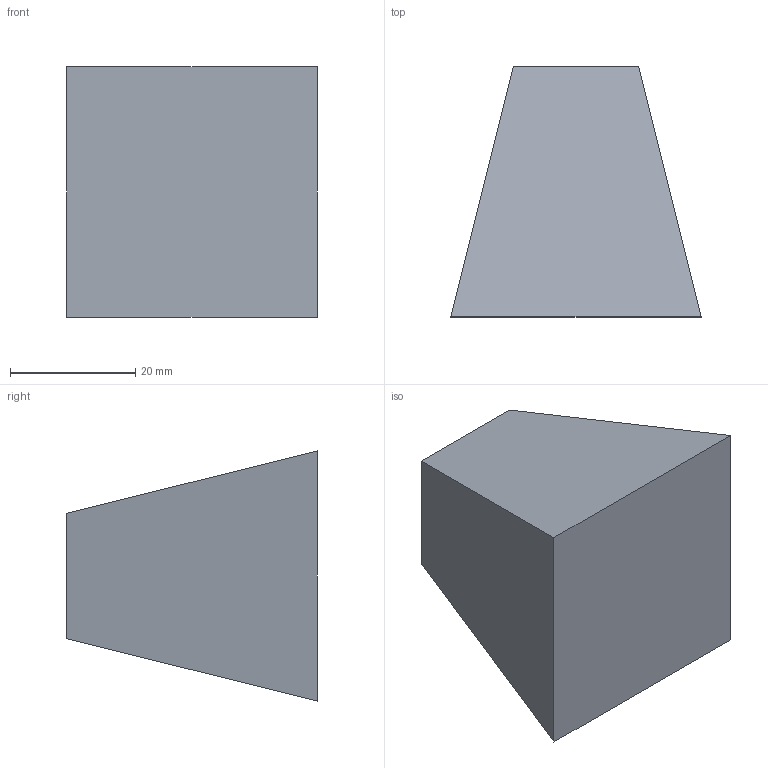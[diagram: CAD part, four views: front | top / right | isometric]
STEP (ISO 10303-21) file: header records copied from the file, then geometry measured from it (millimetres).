
FILE_DESCRIPTION(/* description */ ('','CAx-IF Rec.Pracs.---Representation and Presentation of Product Manufacturing Information (PMI)---4.0---2014-10-13'),/* implementation_level */ '2;1');
FILE_NAME(/* name */ '2.stp',/* time_stamp */ '2026-06-27T16:24:02+01:00',/* author */ ('hunte'),/* organization */ (''),/* preprocessor_version */ 'ST-DEVELOPER v20',/* originating_system */ 'Autodesk Inventor 2024',/* authorisation */ '');
FILE_SCHEMA (('AP242_MANAGED_MODEL_BASED_3D_ENGINEERING_MIM_LF { 1 0 10303 442 1 1 4 }'));
Length unit declared in the file: millimetre
Products named in the file (1): 2
Bounding box: 40 x 40 x 40 mm (x, y, z)
Volume: 37333.3 mm3; surface area: 6947.7 mm2
Topology: 1 solids, 1 shells, 6 faces, 12 edges, 8 vertices
Faces by surface type: plane 6
Entity records: 287 total; most frequent: DIRECTION 52, CARTESIAN_POINT 44, ORIENTED_EDGE 24, AXIS2_PLACEMENT_3D 20, LINE 12, VECTOR 12, EDGE_CURVE 12, VERTEX_POINT 8
